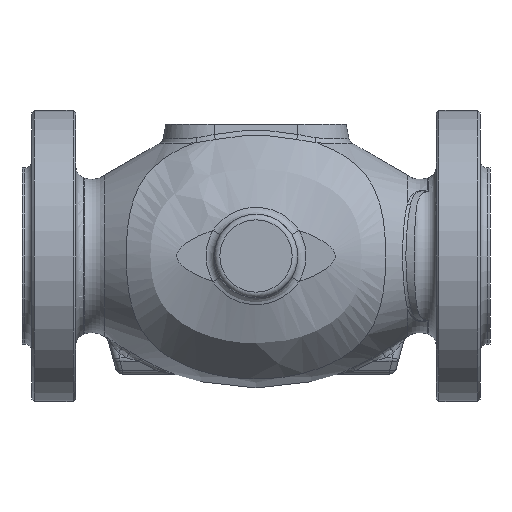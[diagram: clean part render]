
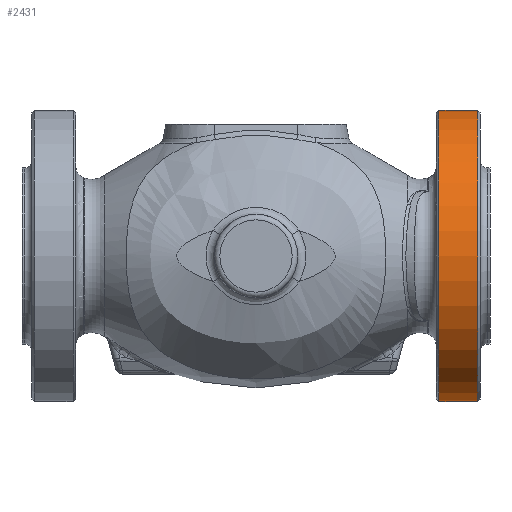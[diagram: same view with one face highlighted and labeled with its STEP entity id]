
A CAD part, front view. The second image highlights one B-rep face of the part: STEP entity #2431.
In plain terms, the highlighted cylindrical face has radius 105 mm (diameter 210 mm), a full revolution.
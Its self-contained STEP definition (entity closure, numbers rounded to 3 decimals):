
#1445=CYLINDRICAL_SURFACE('',#11026,105.);
#2431=ADVANCED_FACE('',(#3391,#3392),#1445,.T.);
#3391=FACE_BOUND('',#3958,.T.);
#3392=FACE_BOUND('',#3959,.T.);
#3958=EDGE_LOOP('',(#5164));
#3959=EDGE_LOOP('',(#5165));
#5164=ORIENTED_EDGE('',*,*,#8982,.T.);
#5165=ORIENTED_EDGE('',*,*,#8983,.T.);
#8002=VERTEX_POINT('',#16972);
#8003=VERTEX_POINT('',#16974);
#8982=EDGE_CURVE('',#8002,#8002,#10337,.T.);
#8983=EDGE_CURVE('',#8003,#8003,#10338,.T.);
#10337=CIRCLE('',#11024,105.);
#10338=CIRCLE('',#11025,105.);
#11024=AXIS2_PLACEMENT_3D('',#16971,#12516,#12517);
#11025=AXIS2_PLACEMENT_3D('',#16973,#12518,#12519);
#11026=AXIS2_PLACEMENT_3D('',#16975,#12520,#12521);
#12516=DIRECTION('',(1.,0.,0.));
#12517=DIRECTION('',(0.,0.,1.));
#12518=DIRECTION('',(-1.,0.,0.));
#12519=DIRECTION('',(0.,0.,-1.));
#12520=DIRECTION('',(1.,0.,0.));
#12521=DIRECTION('',(0.,0.,-1.));
#16971=CARTESIAN_POINT('',(131.7,-4.75,0.));
#16972=CARTESIAN_POINT('',(131.7,-4.75,105.));
#16973=CARTESIAN_POINT('',(159.5,-4.75,0.));
#16974=CARTESIAN_POINT('',(159.5,-4.75,-105.));
#16975=CARTESIAN_POINT('',(0.,-4.75,0.));
